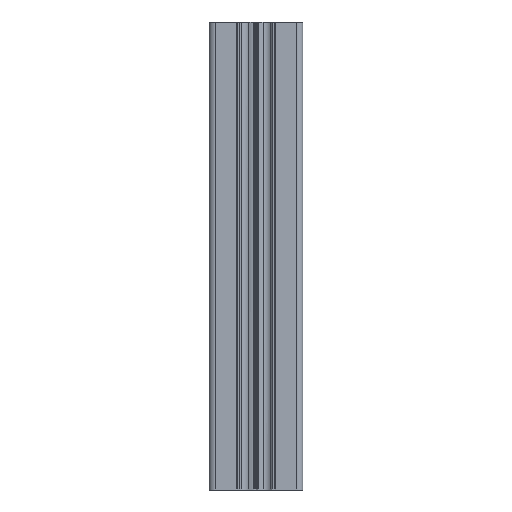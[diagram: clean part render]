
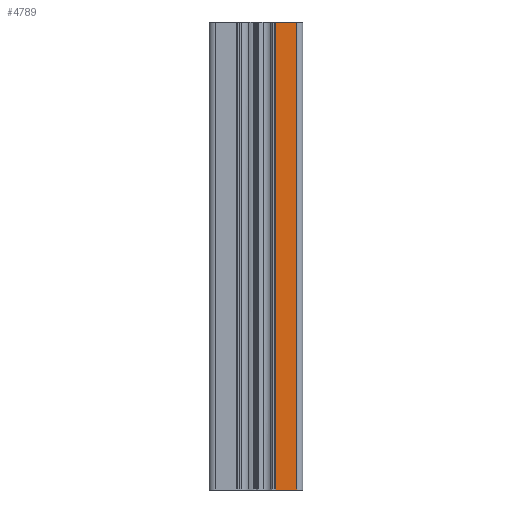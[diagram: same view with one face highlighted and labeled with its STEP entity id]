
A CAD part, front view. The second image highlights one B-rep face of the part: STEP entity #4789.
In plain terms, the highlighted free-form (B-spline) face has degree [1, 1] with [2, 2] control points.
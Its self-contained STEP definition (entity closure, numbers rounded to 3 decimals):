
#165 = ORIENTED_EDGE ( 'NONE', *, *, #4038, .F. ) ;
#347 = CARTESIAN_POINT ( 'NONE',  ( 3388.754, 1363.102, 0. ) ) ;
#596 = CARTESIAN_POINT ( 'NONE',  ( 3384.254, 1363.102, 0. ) ) ;
#627 = B_SPLINE_CURVE_WITH_KNOTS ( 'NONE', 1,
 ( #4421, #347 ),
 .UNSPECIFIED., .F., .F.,
 ( 2, 2 ),
 ( 0., 1. ),
 .UNSPECIFIED. ) ;
#694 = CARTESIAN_POINT ( 'NONE',  ( 3384.254, 1363.102, 100. ) ) ;
#919 = VERTEX_POINT ( 'NONE', #596 ) ;
#1002 = CARTESIAN_POINT ( 'NONE',  ( 3388.754, 1363.102, 100. ) ) ;
#1137 = CARTESIAN_POINT ( 'NONE',  ( 3384.254, 1363.102, 100. ) ) ;
#1170 = CARTESIAN_POINT ( 'NONE',  ( 3388.754, 1363.102, 100. ) ) ;
#1226 = CARTESIAN_POINT ( 'NONE',  ( 3388.754, 1363.102, 0. ) ) ;
#1443 = CARTESIAN_POINT ( 'NONE',  ( 3388.754, 1363.102, 0. ) ) ;
#1909 = CARTESIAN_POINT ( 'NONE',  ( 3384.254, 1363.102, 0. ) ) ;
#1969 = EDGE_CURVE ( 'NONE', #919, #2739, #627, .T. ) ;
#2078 = CARTESIAN_POINT ( 'NONE',  ( 3388.754, 1363.102, 100. ) ) ;
#2169 = CARTESIAN_POINT ( 'NONE',  ( 3384.254, 1363.102, 100. ) ) ;
#2440 = B_SPLINE_SURFACE_WITH_KNOTS ( 'NONE', 1, 1, ( 
 ( #1137, #1170 ),
 ( #1909, #3961 ) ),
 .UNSPECIFIED., .F., .F., .F.,
 ( 2, 2 ),
 ( 2, 2 ),
 ( 0., 1. ),
 ( 0., 1. ),
 .UNSPECIFIED. ) ;
#2540 = ORIENTED_EDGE ( 'NONE', *, *, #4174, .T. ) ;
#2549 = ORIENTED_EDGE ( 'NONE', *, *, #1969, .T. ) ;
#2739 = VERTEX_POINT ( 'NONE', #1443 ) ;
#3194 = B_SPLINE_CURVE_WITH_KNOTS ( 'NONE', 1,
 ( #1226, #2078 ),
 .UNSPECIFIED., .F., .F.,
 ( 2, 2 ),
 ( 0., 1. ),
 .UNSPECIFIED. ) ;
#3292 = CARTESIAN_POINT ( 'NONE',  ( 3384.254, 1363.102, 0. ) ) ;
#3309 = B_SPLINE_CURVE_WITH_KNOTS ( 'NONE', 1,
 ( #3367, #3292 ),
 .UNSPECIFIED., .F., .F.,
 ( 2, 2 ),
 ( 0., 1. ),
 .UNSPECIFIED. ) ;
#3367 = CARTESIAN_POINT ( 'NONE',  ( 3384.254, 1363.102, 100. ) ) ;
#3836 = VERTEX_POINT ( 'NONE', #2169 ) ;
#3882 = VERTEX_POINT ( 'NONE', #1002 ) ;
#3961 = CARTESIAN_POINT ( 'NONE',  ( 3388.754, 1363.102, 0. ) ) ;
#4038 = EDGE_CURVE ( 'NONE', #3836, #3882, #4850, .T. ) ;
#4174 = EDGE_CURVE ( 'NONE', #2739, #3882, #3194, .T. ) ;
#4421 = CARTESIAN_POINT ( 'NONE',  ( 3384.254, 1363.102, 0. ) ) ;
#4498 = FACE_OUTER_BOUND ( 'NONE', #4771, .T. ) ;
#4654 = EDGE_CURVE ( 'NONE', #3836, #919, #3309, .T. ) ;
#4771 = EDGE_LOOP ( 'NONE', ( #165, #5091, #2549, #2540 ) ) ;
#4789 = ADVANCED_FACE ( 'NONE', ( #4498 ), #2440, .T. ) ;
#4850 = B_SPLINE_CURVE_WITH_KNOTS ( 'NONE', 1,
 ( #694, #5169 ),
 .UNSPECIFIED., .F., .F.,
 ( 2, 2 ),
 ( 0., 1. ),
 .UNSPECIFIED. ) ;
#5091 = ORIENTED_EDGE ( 'NONE', *, *, #4654, .T. ) ;
#5169 = CARTESIAN_POINT ( 'NONE',  ( 3388.754, 1363.102, 100. ) ) ;
